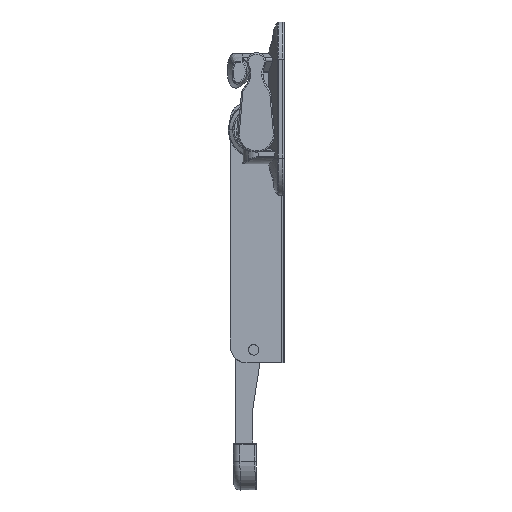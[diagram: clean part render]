
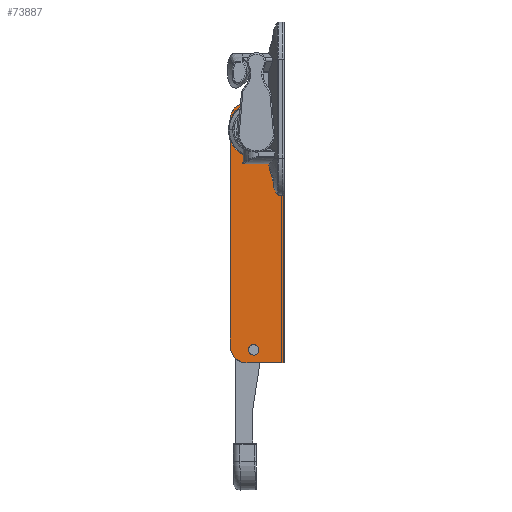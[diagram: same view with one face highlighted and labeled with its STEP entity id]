
A CAD part, left-side view. The second image highlights one B-rep face of the part: STEP entity #73887.
In plain terms, the highlighted planar face has unit normal (-1, -0.024, 0).
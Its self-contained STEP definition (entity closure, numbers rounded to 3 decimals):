
#293 = VERTEX_POINT ( 'NONE', #34694 ) ;
#900 = CARTESIAN_POINT ( 'NONE',  ( -0.524, 22., 164. ) ) ;
#1008 = LINE ( 'NONE', #58545, #45916 ) ;
#2551 = CARTESIAN_POINT ( 'NONE',  ( -1., 42., 5.385 ) ) ;
#3327 = CARTESIAN_POINT ( 'NONE',  ( -0.524, 22., 164. ) ) ;
#3586 = EDGE_CURVE ( 'NONE', #17555, #37306, #53018, .T. ) ;
#3694 = CARTESIAN_POINT ( 'NONE',  ( -1., 42., 13. ) ) ;
#3910 = ORIENTED_EDGE ( 'NONE', *, *, #3586, .F. ) ;
#4386 = CARTESIAN_POINT ( 'NONE',  ( 0.19, -8., 194. ) ) ;
#6802 = VERTEX_POINT ( 'NONE', #10601 ) ;
#8411 = EDGE_LOOP ( 'NONE', ( #49212, #61257 ) ) ;
#9261 = CARTESIAN_POINT ( 'NONE',  ( -0.69, 29., 0. ) ) ;
#9882 = VERTEX_POINT ( 'NONE', #3694 ) ;
#9956 = FACE_BOUND ( 'NONE', #65326, .T. ) ;
#10276 = CARTESIAN_POINT ( 'NONE',  ( -0.524, 22., 194. ) ) ;
#10601 = CARTESIAN_POINT ( 'NONE',  ( -0.571, 24., 14. ) ) ;
#11163 = CARTESIAN_POINT ( 'NONE',  ( -0.035, 1.464, 200. ) ) ;
#12652 =( BOUNDED_CURVE ( )  B_SPLINE_CURVE ( 3, ( #70471, #47296, #23975, #64861 ),
 .UNSPECIFIED., .F., .F. ) 
 B_SPLINE_CURVE_WITH_KNOTS ( ( 4, 4 ),
 ( 4.712, 7.854 ),
 .UNSPECIFIED. ) 
 CURVE ( )  GEOMETRIC_REPRESENTATION_ITEM ( )  RATIONAL_B_SPLINE_CURVE ( ( 1., 0.333, 0.333, 1. ) ) 
 REPRESENTATION_ITEM ( '' )  );
#13701 = CARTESIAN_POINT ( 'NONE',  ( -0.571, 24., 6. ) ) ;
#13991 = CARTESIAN_POINT ( 'NONE',  ( -1., 42., 200. ) ) ;
#14063 = VERTEX_POINT ( 'NONE', #9261 ) ;
#14878 = CARTESIAN_POINT ( 'NONE',  ( -0.524, 22., 194. ) ) ;
#15844 =( BOUNDED_CURVE ( )  B_SPLINE_CURVE ( 3, ( #45976, #75063, #51854, #16771 ),
 .UNSPECIFIED., .F., .F. ) 
 B_SPLINE_CURVE_WITH_KNOTS ( ( 4, 4 ),
 ( 1.571, 3.142 ),
 .UNSPECIFIED. ) 
 CURVE ( )  GEOMETRIC_REPRESENTATION_ITEM ( )  RATIONAL_B_SPLINE_CURVE ( ( 1., 0.805, 0.805, 1. ) ) 
 REPRESENTATION_ITEM ( '' )  );
#16771 = CARTESIAN_POINT ( 'NONE',  ( -1., 42., 187. ) ) ;
#17349 = DIRECTION ( 'NONE',  ( -1., -0.024, 0. ) ) ;
#17513 = EDGE_CURVE ( 'NONE', #6802, #19375, #12652, .T. ) ;
#17555 = VERTEX_POINT ( 'NONE', #900 ) ;
#17824 = CARTESIAN_POINT ( 'NONE',  ( -0.571, 24., 6. ) ) ;
#18084 = CARTESIAN_POINT ( 'NONE',  ( -0.381, 16., 6. ) ) ;
#19336 = EDGE_CURVE ( 'NONE', #14063, #63251, #22566, .T. ) ;
#19375 = VERTEX_POINT ( 'NONE', #13701 ) ;
#19655 = DIRECTION ( 'NONE',  ( 0.024, -1., 0. ) ) ;
#19817 = VERTEX_POINT ( 'NONE', #65314 ) ;
#20231 = CARTESIAN_POINT ( 'NONE',  ( -0.69, 29., 0. ) ) ;
#20800 = CARTESIAN_POINT ( 'NONE',  ( -1.238, 52., 194. ) ) ;
#22566 = LINE ( 'NONE', #60257, #65558 ) ;
#23334 = LINE ( 'NONE', #67519, #33381 ) ;
#23975 = CARTESIAN_POINT ( 'NONE',  ( -0.762, 32., 6. ) ) ;
#23996 = CARTESIAN_POINT ( 'NONE',  ( -0.381, 16., 14. ) ) ;
#24094 =( BOUNDED_CURVE ( )  B_SPLINE_CURVE ( 3, ( #14878, #20800, #38470, #3327 ),
 .UNSPECIFIED., .F., .F. ) 
 B_SPLINE_CURVE_WITH_KNOTS ( ( 4, 4 ),
 ( 4.712, 7.854 ),
 .UNSPECIFIED. ) 
 CURVE ( )  GEOMETRIC_REPRESENTATION_ITEM ( )  RATIONAL_B_SPLINE_CURVE ( ( 1., 0.333, 0.333, 1. ) ) 
 REPRESENTATION_ITEM ( '' )  );
#25226 = EDGE_CURVE ( 'NONE', #19817, #293, #15844, .T. ) ;
#26230 = ORIENTED_EDGE ( 'NONE', *, *, #19336, .T. ) ;
#27947 = ORIENTED_EDGE ( 'NONE', *, *, #70060, .F. ) ;
#29158 = CARTESIAN_POINT ( 'NONE',  ( 0., 0., 0. ) ) ;
#29415 = EDGE_CURVE ( 'NONE', #19375, #6802, #67412, .T. ) ;
#31123 =( BOUNDED_CURVE ( )  B_SPLINE_CURVE ( 3, ( #43561, #2551, #55293, #20231 ),
 .UNSPECIFIED., .F., .F. ) 
 B_SPLINE_CURVE_WITH_KNOTS ( ( 4, 4 ),
 ( 0., 1.571 ),
 .UNSPECIFIED. ) 
 CURVE ( )  GEOMETRIC_REPRESENTATION_ITEM ( )  RATIONAL_B_SPLINE_CURVE ( ( 1., 0.805, 0.805, 1. ) ) 
 REPRESENTATION_ITEM ( '' )  );
#31787 = ORIENTED_EDGE ( 'NONE', *, *, #25226, .T. ) ;
#33381 = VECTOR ( 'NONE', #44313, 1000. ) ;
#33903 = EDGE_LOOP ( 'NONE', ( #26230, #71470, #27947, #31787, #70873, #45816 ) ) ;
#34694 = CARTESIAN_POINT ( 'NONE',  ( -1., 42., 187. ) ) ;
#37110 = AXIS2_PLACEMENT_3D ( 'NONE', #29158, #17349, #46842 ) ;
#37306 = VERTEX_POINT ( 'NONE', #50260 ) ;
#38470 = CARTESIAN_POINT ( 'NONE',  ( -1.238, 52., 164. ) ) ;
#40965 = PLANE ( 'NONE',  #37110 ) ;
#41587 = VERTEX_POINT ( 'NONE', #11163 ) ;
#43561 = CARTESIAN_POINT ( 'NONE',  ( -1., 42., 13. ) ) ;
#44313 = DIRECTION ( 'NONE',  ( 0., 0., 1. ) ) ;
#44836 = FACE_OUTER_BOUND ( 'NONE', #33903, .T. ) ;
#45194 = LINE ( 'NONE', #13991, #58853 ) ;
#45412 = CARTESIAN_POINT ( 'NONE',  ( -0.524, 22., 164. ) ) ;
#45816 = ORIENTED_EDGE ( 'NONE', *, *, #67928, .T. ) ;
#45916 = VECTOR ( 'NONE', #64423, 1000. ) ;
#45976 = CARTESIAN_POINT ( 'NONE',  ( -0.69, 29., 200. ) ) ;
#46842 = DIRECTION ( 'NONE',  ( 0.024, -1., 0. ) ) ;
#47296 = CARTESIAN_POINT ( 'NONE',  ( -0.762, 32., 14. ) ) ;
#49212 = ORIENTED_EDGE ( 'NONE', *, *, #17513, .F. ) ;
#50260 = CARTESIAN_POINT ( 'NONE',  ( -0.524, 22., 194. ) ) ;
#51716 = EDGE_CURVE ( 'NONE', #9882, #293, #23334, .T. ) ;
#51854 = CARTESIAN_POINT ( 'NONE',  ( -1., 42., 194.615 ) ) ;
#53018 =( BOUNDED_CURVE ( )  B_SPLINE_CURVE ( 3, ( #45412, #74481, #4386, #10276 ),
 .UNSPECIFIED., .F., .F. ) 
 B_SPLINE_CURVE_WITH_KNOTS ( ( 4, 4 ),
 ( 1.571, 4.712 ),
 .UNSPECIFIED. ) 
 CURVE ( )  GEOMETRIC_REPRESENTATION_ITEM ( )  RATIONAL_B_SPLINE_CURVE ( ( 1., 0.333, 0.333, 1. ) ) 
 REPRESENTATION_ITEM ( '' )  );
#54681 = DIRECTION ( 'NONE',  ( 0.024, -1., 0. ) ) ;
#55293 = CARTESIAN_POINT ( 'NONE',  ( -0.872, 36.615, 0. ) ) ;
#56415 = EDGE_CURVE ( 'NONE', #37306, #17555, #24094, .T. ) ;
#58545 = CARTESIAN_POINT ( 'NONE',  ( -0.035, 1.464, 200. ) ) ;
#58853 = VECTOR ( 'NONE', #19655, 1000. ) ;
#60257 = CARTESIAN_POINT ( 'NONE',  ( -1., 42., 0. ) ) ;
#60464 = ORIENTED_EDGE ( 'NONE', *, *, #56415, .F. ) ;
#61257 = ORIENTED_EDGE ( 'NONE', *, *, #29415, .F. ) ;
#62091 = EDGE_CURVE ( 'NONE', #63251, #41587, #1008, .T. ) ;
#63251 = VERTEX_POINT ( 'NONE', #68949 ) ;
#64423 = DIRECTION ( 'NONE',  ( 0., 0., 1. ) ) ;
#64861 = CARTESIAN_POINT ( 'NONE',  ( -0.571, 24., 6. ) ) ;
#64882 = CARTESIAN_POINT ( 'NONE',  ( -0.571, 24., 14. ) ) ;
#65314 = CARTESIAN_POINT ( 'NONE',  ( -0.69, 29., 200. ) ) ;
#65326 = EDGE_LOOP ( 'NONE', ( #60464, #3910 ) ) ;
#65558 = VECTOR ( 'NONE', #54681, 1000. ) ;
#67412 =( BOUNDED_CURVE ( )  B_SPLINE_CURVE ( 3, ( #17824, #18084, #23996, #64882 ),
 .UNSPECIFIED., .F., .F. ) 
 B_SPLINE_CURVE_WITH_KNOTS ( ( 4, 4 ),
 ( 1.571, 4.712 ),
 .UNSPECIFIED. ) 
 CURVE ( )  GEOMETRIC_REPRESENTATION_ITEM ( )  RATIONAL_B_SPLINE_CURVE ( ( 1., 0.333, 0.333, 1. ) ) 
 REPRESENTATION_ITEM ( '' )  );
#67519 = CARTESIAN_POINT ( 'NONE',  ( -1., 42., 0. ) ) ;
#67928 = EDGE_CURVE ( 'NONE', #9882, #14063, #31123, .T. ) ;
#68949 = CARTESIAN_POINT ( 'NONE',  ( -0.035, 1.464, 0. ) ) ;
#70060 = EDGE_CURVE ( 'NONE', #19817, #41587, #45194, .T. ) ;
#70471 = CARTESIAN_POINT ( 'NONE',  ( -0.571, 24., 14. ) ) ;
#70873 = ORIENTED_EDGE ( 'NONE', *, *, #51716, .F. ) ;
#71470 = ORIENTED_EDGE ( 'NONE', *, *, #62091, .T. ) ;
#72228 = FACE_BOUND ( 'NONE', #8411, .T. ) ;
#73887 = ADVANCED_FACE ( 'NONE', ( #72228, #9956, #44836 ), #40965, .T. ) ;
#74481 = CARTESIAN_POINT ( 'NONE',  ( 0.19, -8., 164. ) ) ;
#75063 = CARTESIAN_POINT ( 'NONE',  ( -0.872, 36.615, 200. ) ) ;
